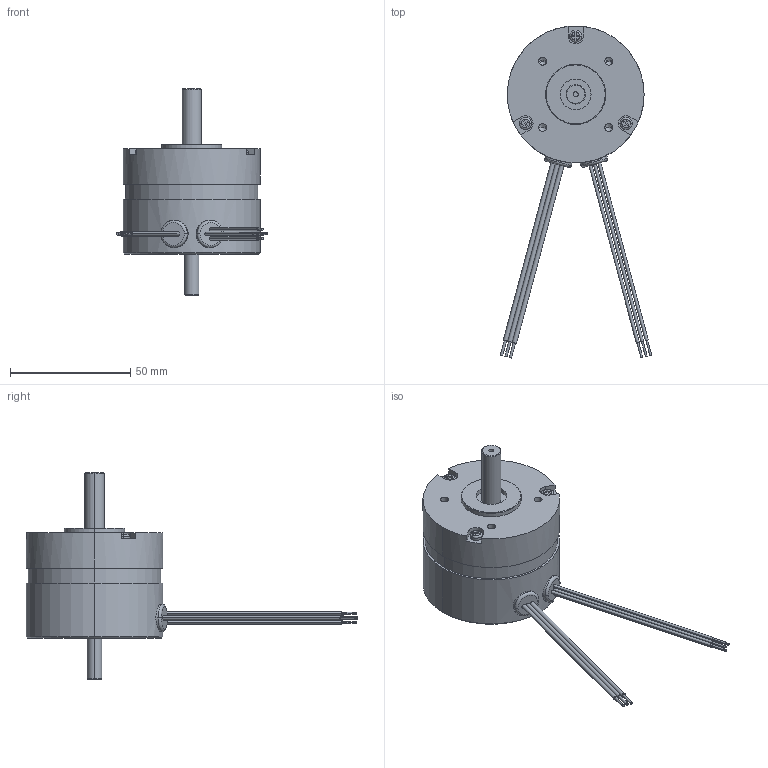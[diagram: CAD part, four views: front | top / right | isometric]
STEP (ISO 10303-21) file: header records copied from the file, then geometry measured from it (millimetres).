
FILE_DESCRIPTION (( 'STEP AP214' ), '1' );
FILE_NAME ('BLWR231D.STEP', '2013-07-24T21:37:43', ( '' ), ( '' ), 'SwSTEP 2.0', 'SolidWorks 2013', '' );
FILE_SCHEMA (( 'AUTOMOTIVE_DESIGN' ));
Length unit declared in the file: inch
Products named in the file (1): BLWR231D
Bounding box: 62.81 x 137.75 x 85.6 mm (x, y, z)
Volume: 112330 mm3; surface area: 18549.2 mm2
Topology: 1 solids, 1 shells, 289 faces, 707 edges, 444 vertices
Faces by surface type: plane 129, cylinder 110, cone 36, torus 14
Entity records: 12486 total; most frequent: CARTESIAN_POINT 1851, DIRECTION 1487, ORIENTED_EDGE 1378, EDGE_CURVE 689, AXIS2_PLACEMENT_3D 580, VERTEX_POINT 444, EDGE_LOOP 331, VECTOR 327
